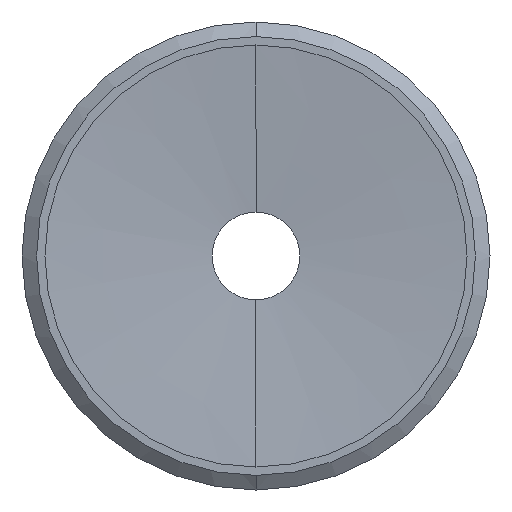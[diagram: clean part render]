
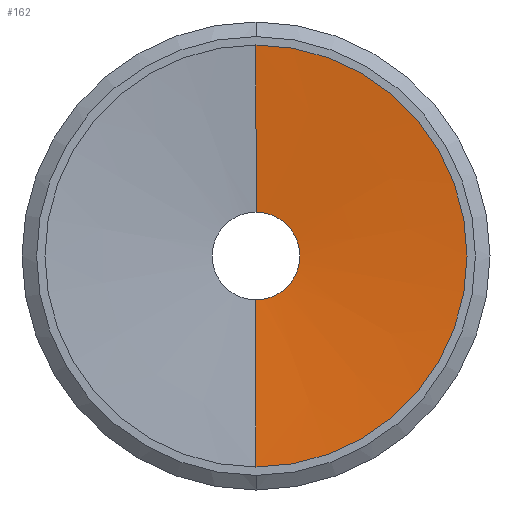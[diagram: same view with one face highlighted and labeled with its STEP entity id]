
A CAD part, left-side view. The second image highlights one B-rep face of the part: STEP entity #162.
In plain terms, the highlighted conical face has half-angle 85 degrees and reference radius 1.5 mm.
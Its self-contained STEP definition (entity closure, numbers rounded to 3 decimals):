
#27 = CARTESIAN_POINT ( 'NONE',  ( 0., 0., 7.215 ) ) ;
#94 = ORIENTED_EDGE ( 'NONE', *, *, #504, .F. ) ;
#131 = CARTESIAN_POINT ( 'NONE',  ( 0.5, 0., 0. ) ) ;
#162 = ADVANCED_FACE ( 'NONE', ( #516 ), #881, .F. ) ;
#165 = ORIENTED_EDGE ( 'NONE', *, *, #378, .T. ) ;
#187 = DIRECTION ( 'NONE',  ( 0., 0., 1. ) ) ;
#265 = AXIS2_PLACEMENT_3D ( 'NONE', #742, #631, #187 ) ;
#283 = VECTOR ( 'NONE', #889, 1000. ) ;
#323 = CARTESIAN_POINT ( 'NONE',  ( 0., 0., -7.215 ) ) ;
#328 = LINE ( 'NONE', #711, #507 ) ;
#340 = EDGE_LOOP ( 'NONE', ( #165, #463, #821, #94 ) ) ;
#362 = AXIS2_PLACEMENT_3D ( 'NONE', #131, #790, #566 ) ;
#378 = EDGE_CURVE ( 'NONE', #633, #898, #745, .T. ) ;
#458 = CIRCLE ( 'NONE', #597, 7.215 ) ;
#463 = ORIENTED_EDGE ( 'NONE', *, *, #535, .T. ) ;
#467 = EDGE_CURVE ( 'NONE', #663, #533, #458, .T. ) ;
#471 = CARTESIAN_POINT ( 'NONE',  ( 0.5, 0., -1.5 ) ) ;
#504 = EDGE_CURVE ( 'NONE', #633, #533, #620, .T. ) ;
#507 = VECTOR ( 'NONE', #770, 1000. ) ;
#516 = FACE_OUTER_BOUND ( 'NONE', #340, .T. ) ;
#533 = VERTEX_POINT ( 'NONE', #27 ) ;
#535 = EDGE_CURVE ( 'NONE', #898, #663, #328, .T. ) ;
#564 = CARTESIAN_POINT ( 'NONE',  ( 0.5, 0., 1.5 ) ) ;
#566 = DIRECTION ( 'NONE',  ( 0., 0., 1. ) ) ;
#597 = AXIS2_PLACEMENT_3D ( 'NONE', #824, #827, #830 ) ;
#620 = LINE ( 'NONE', #879, #283 ) ;
#631 = DIRECTION ( 'NONE',  ( 1., 0., 0. ) ) ;
#633 = VERTEX_POINT ( 'NONE', #564 ) ;
#663 = VERTEX_POINT ( 'NONE', #323 ) ;
#711 = CARTESIAN_POINT ( 'NONE',  ( 0.5, 0., -1.5 ) ) ;
#742 = CARTESIAN_POINT ( 'NONE',  ( 0.5, 0., 0. ) ) ;
#745 = CIRCLE ( 'NONE', #265, 1.5 ) ;
#770 = DIRECTION ( 'NONE',  ( -0.087, 0., -0.996 ) ) ;
#790 = DIRECTION ( 'NONE',  ( -1., 0., 0. ) ) ;
#821 = ORIENTED_EDGE ( 'NONE', *, *, #467, .T. ) ;
#824 = CARTESIAN_POINT ( 'NONE',  ( 0., 0., 0. ) ) ;
#827 = DIRECTION ( 'NONE',  ( -1., 0., 0. ) ) ;
#830 = DIRECTION ( 'NONE',  ( 0., 0., 1. ) ) ;
#879 = CARTESIAN_POINT ( 'NONE',  ( 0.5, 0., 1.5 ) ) ;
#881 = CONICAL_SURFACE ( 'NONE', #362, 1.5, 1.484 ) ;
#889 = DIRECTION ( 'NONE',  ( -0.087, 0., 0.996 ) ) ;
#898 = VERTEX_POINT ( 'NONE', #471 ) ;
